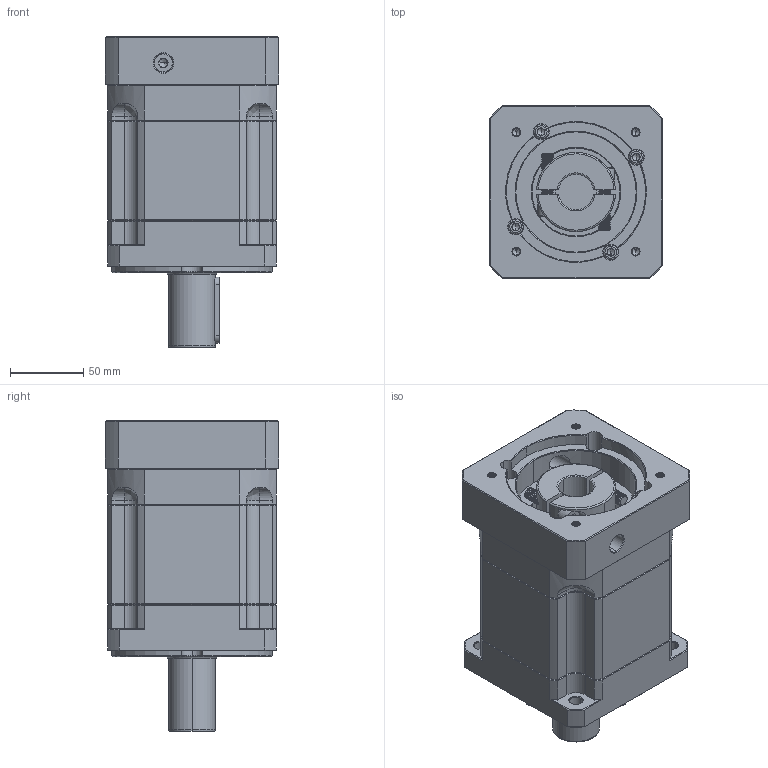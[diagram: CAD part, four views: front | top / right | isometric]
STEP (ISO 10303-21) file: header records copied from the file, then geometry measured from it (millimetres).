
FILE_DESCRIPTION (( 'STEP AP214' ), '1' );
FILE_NAME ('ZB115A-D32-L2-P2-24-95-115-M6.step', '2023-08-26T06:31:16', ( '' ), ( '' ), 'SwSTEP 2.0', 'SolidWorks 2016', '' );
FILE_SCHEMA (( 'AUTOMOTIVE_DESIGN' ));
Length unit declared in the file: millimetre
Products named in the file (1): ZB115A-D32-L2-P2-24-95-115-M6
Bounding box: 118 x 118 x 212 mm (x, y, z)
Volume: 1808722.2 mm3; surface area: 179039.9 mm2
Topology: 6 solids, 6 shells, 2399 faces, 6305 edges, 4002 vertices
Faces by surface type: plane 1144, cylinder 440, bspline 423, cone 372, torus 20
Entity records: 129110 total; most frequent: CARTESIAN_POINT 47098, ORIENTED_EDGE 12542, DIRECTION 9961, EDGE_CURVE 6271, VERTEX_POINT 4002, VECTOR 3993, LINE 3993, AXIS2_PLACEMENT_3D 2984
